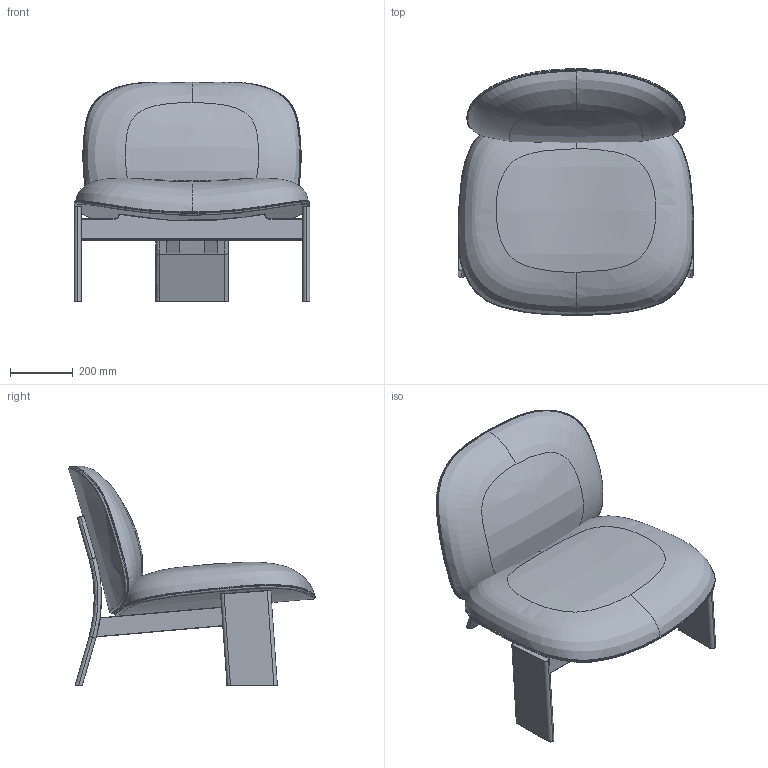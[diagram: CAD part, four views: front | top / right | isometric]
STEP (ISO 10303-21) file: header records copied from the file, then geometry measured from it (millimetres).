
FILE_DESCRIPTION(/* description */ (''),/* implementation_level */ '2;1');
FILE_NAME(/* name */ 'Saki Poltrona_ELITE_3D',/* time_stamp */ '2026-05-08T12:13:07+02:00',/* author */ (''),/* organization */ (''),/* preprocessor_version */ 'ST-DEVELOPER v16.5',/* originating_system */ 'Rhino 7.38',/* authorisation */ '');
FILE_SCHEMA (('AUTOMOTIVE_DESIGN_CC2'));
Length unit declared in the file: millimetre
Products named in the file (1): Document
Bounding box: 750.26 x 784.48 x 699.68 mm (x, y, z)
Volume: 15051410.7 mm3; surface area: 3335477.2 mm2
Topology: 14 solids, 16 shells, 299 faces, 582 edges, 311 vertices
Faces by surface type: bspline 180, cylinder 75, plane 44
Full cylindrical faces by diameter (mm): 9.5 x2, 15 x2, 20 x2, 21 x2
Entity records: 36191 total; most frequent: CARTESIAN_POINT 32536, ORIENTED_EDGE 1156, EDGE_CURVE 580, VERTEX_POINT 309, EDGE_LOOP 305, ADVANCED_FACE 299, FACE_OUTER_BOUND 299, DIRECTION 127
